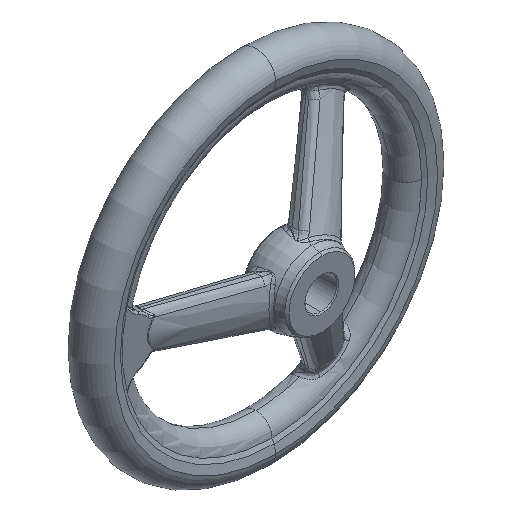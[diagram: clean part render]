
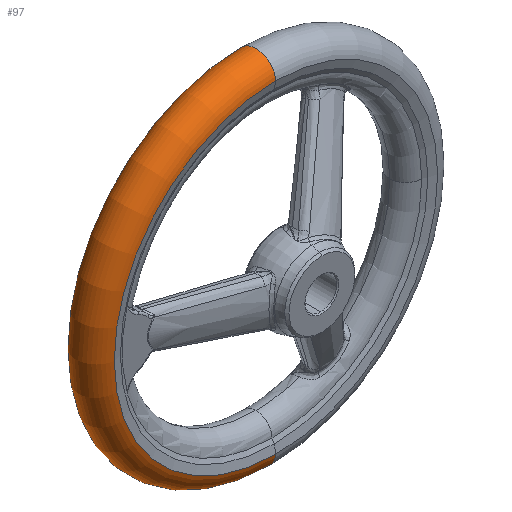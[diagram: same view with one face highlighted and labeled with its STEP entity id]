
A CAD part, isometric view. The second image highlights one B-rep face of the part: STEP entity #97.
In plain terms, the highlighted toroidal (fillet/blend) face has major radius 79.944 mm and minor radius 10.056 mm.
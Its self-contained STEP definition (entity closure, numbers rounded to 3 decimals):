
#8 = EDGE_LOOP ( 'NONE', ( #24, #99, #63, #74 ) ) ;
#24 = ORIENTED_EDGE ( 'NONE', *, *, #14909, .F. ) ;
#63 = ORIENTED_EDGE ( 'NONE', *, *, #14910, .T. ) ;
#74 = ORIENTED_EDGE ( 'NONE', *, *, #14863, .F. ) ;
#97 = ADVANCED_FACE ( 'NONE', ( #15457 ), #15461, .T. ) ;
#99 = ORIENTED_EDGE ( 'NONE', *, *, #15175, .T. ) ;
#11287 = CARTESIAN_POINT ( 'NONE',  ( 0., 43., 81. ) ) ;
#11320 = CARTESIAN_POINT ( 'NONE',  ( 0., 43., -81. ) ) ;
#11401 = DIRECTION ( 'NONE',  ( 0., 0., -1. ) ) ;
#11402 = DIRECTION ( 'NONE',  ( 0., -1., 0. ) ) ;
#11403 = CARTESIAN_POINT ( 'NONE',  ( 0., 43., 0. ) ) ;
#11404 = AXIS2_PLACEMENT_3D ( 'NONE', #11403, #11402, #11401 ) ;
#11411 = CIRCLE ( 'NONE', #11404, 81. ) ;
#14815 = VERTEX_POINT ( 'NONE', #23842 ) ;
#14845 = VERTEX_POINT ( 'NONE', #24045 ) ;
#14863 = EDGE_CURVE ( 'NONE', #14815, #14845, #24100, .T. ) ;
#14909 = EDGE_CURVE ( 'NONE', #15123, #14815, #24155, .T. ) ;
#14910 = EDGE_CURVE ( 'NONE', #15134, #14845, #24159, .T. ) ;
#15123 = VERTEX_POINT ( 'NONE', #11287 ) ;
#15134 = VERTEX_POINT ( 'NONE', #11320 ) ;
#15175 = EDGE_CURVE ( 'NONE', #15123, #15134, #11411, .T. ) ;
#15405 = AXIS2_PLACEMENT_3D ( 'NONE', #15409, #15453, #15452 ) ;
#15409 = CARTESIAN_POINT ( 'NONE',  ( 0., 33., 0. ) ) ;
#15452 = DIRECTION ( 'NONE',  ( 0., 0., -1. ) ) ;
#15453 = DIRECTION ( 'NONE',  ( 0., -1., 0. ) ) ;
#15457 = FACE_OUTER_BOUND ( 'NONE', #8, .T. ) ;
#15461 = TOROIDAL_SURFACE ( 'NONE', #15405, 79.944, 10.056 ) ;
#23842 = CARTESIAN_POINT ( 'NONE',  ( 0., 23., 81. ) ) ;
#24045 = CARTESIAN_POINT ( 'NONE',  ( 0., 23., -81. ) ) ;
#24075 = CARTESIAN_POINT ( 'NONE',  ( 0., 23., 0. ) ) ;
#24096 = AXIS2_PLACEMENT_3D ( 'NONE', #24075, #24122, #24121 ) ;
#24100 = CIRCLE ( 'NONE', #24096, 81. ) ;
#24121 = DIRECTION ( 'NONE',  ( 0., 0., -1. ) ) ;
#24122 = DIRECTION ( 'NONE',  ( 0., -1., 0. ) ) ;
#24154 = CARTESIAN_POINT ( 'NONE',  ( 0., 33., -79.944 ) ) ;
#24155 = CIRCLE ( 'NONE', #24166, 10.056 ) ;
#24159 = CIRCLE ( 'NONE', #24219, 10.056 ) ;
#24166 = AXIS2_PLACEMENT_3D ( 'NONE', #24216, #24215, #24214 ) ;
#24208 = DIRECTION ( 'NONE',  ( 0., 0., 1. ) ) ;
#24209 = DIRECTION ( 'NONE',  ( -1., 0., 0. ) ) ;
#24214 = DIRECTION ( 'NONE',  ( 0., 0., -1. ) ) ;
#24215 = DIRECTION ( 'NONE',  ( 1., 0., 0. ) ) ;
#24216 = CARTESIAN_POINT ( 'NONE',  ( 0., 33., 79.944 ) ) ;
#24219 = AXIS2_PLACEMENT_3D ( 'NONE', #24154, #24209, #24208 ) ;
